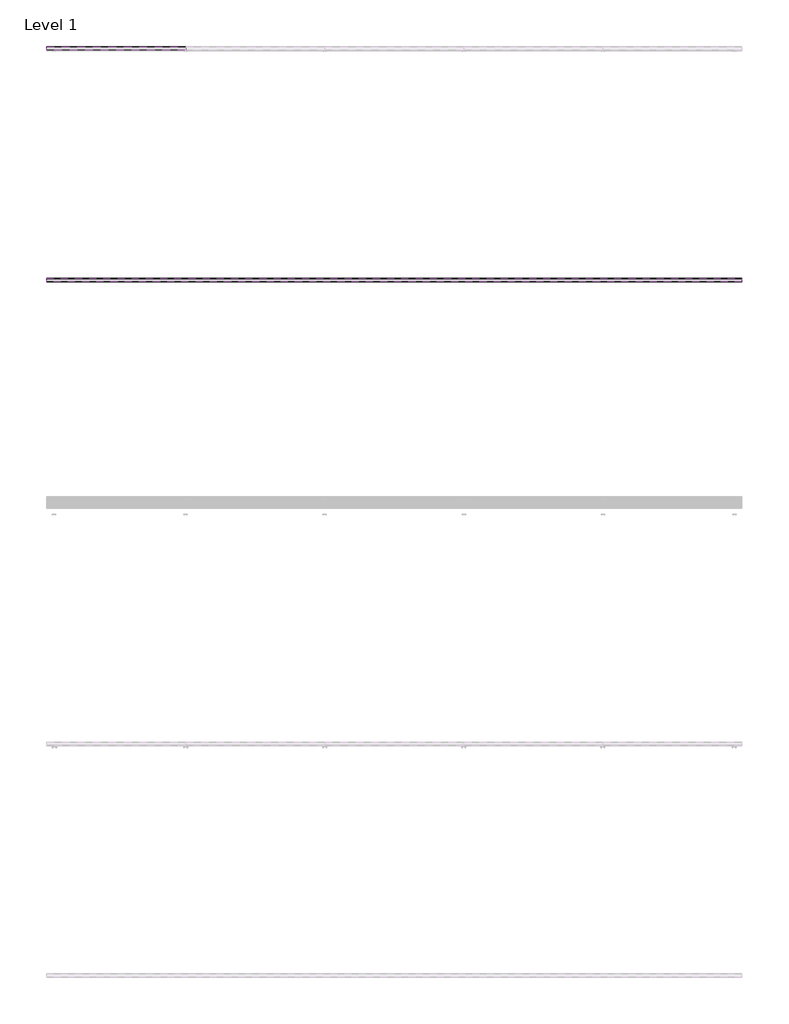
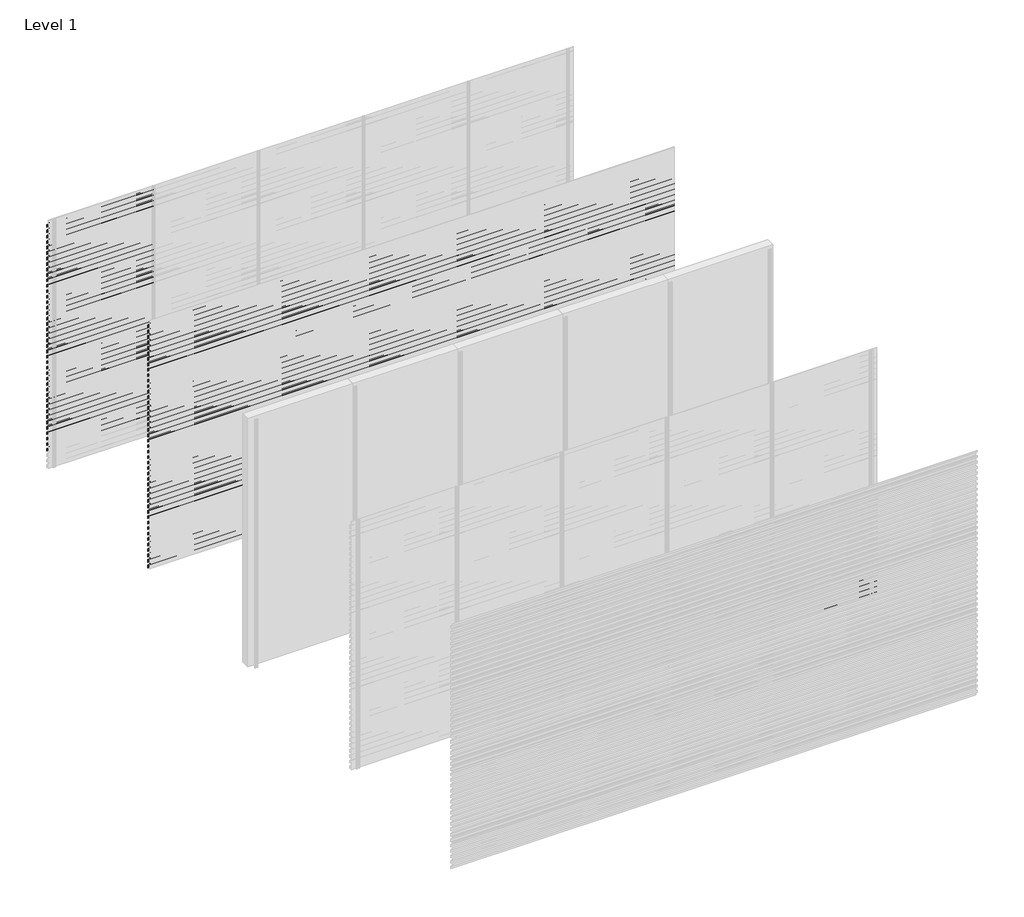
# One storey, part 31 of 33: 91 proxies.
"""IFC4 building model written with IfcOpenShell, lengths in millimetres."""

from ifc_helpers import new_model, si_unit, frame, origin, place, context, project, spatial, polyline, outline, extrude, element, save

model = new_model("IFC4")

# Units and contexts
model_context = context("Model", 3, world=origin())
ifc_project = project(units=[si_unit("LENGTHUNIT", "METRE", prefix="MILLI")], contexts=[model_context])

# Site, building, storey
site = spatial("IfcSite", under=ifc_project)
building = spatial("IfcBuilding", under=site)
storey = spatial("IfcBuildingStorey", under=building, Name="Level 1", Elevation=0.0)

# Proxies
placement = place(None, origin())
element("IfcBuildingElementProxy", 1, Name="Wall Sweeps", at=placement, inside=storey, context=model_context, shape_type="SweptSolid", body=[
    extrude(outline(polyline([(33.0, 2930.0), (33.0, 2897.0), (31.75, 2897.7216933), (31.75, 2929.2872415), (2.0, 2950.0588647), (2.0, 2970.0), (3.25, 2970.0), (3.25, 2950.7716232), (33.0, 2930.0)])), frame((0.0, 0.0, 0.0), z_axis=(1.0, 0.0, 0.0), x_axis=(0.0, 1.0, 0.0)), (0.0, 0.0, 1.0), 1200.0),
])
element("IfcBuildingElementProxy", 2, Name="Wall Sweeps", at=placement, inside=storey, context=model_context, shape_type="SweptSolid", body=[
    extrude(outline(polyline([(33.0, 2864.0), (33.0, 2831.0), (31.75, 2831.7216933), (31.75, 2863.2872415), (2.0, 2884.0588647), (2.0, 2904.0), (3.25, 2904.0), (3.25, 2884.7716232), (33.0, 2864.0)])), frame((0.0, 0.0, 0.0), z_axis=(1.0, 0.0, 0.0), x_axis=(0.0, 1.0, 0.0)), (0.0, 0.0, 1.0), 1200.0),
])
element("IfcBuildingElementProxy", 3, Name="Wall Sweeps", at=placement, inside=storey, context=model_context, shape_type="SweptSolid", body=[
    extrude(outline(polyline([(33.0, 2798.0), (33.0, 2765.0), (31.75, 2765.7216933), (31.75, 2797.2872415), (2.0, 2818.0588647), (2.0, 2838.0), (3.25, 2838.0), (3.25, 2818.7716232), (33.0, 2798.0)])), frame((0.0, 0.0, 0.0), z_axis=(1.0, 0.0, 0.0), x_axis=(0.0, 1.0, 0.0)), (0.0, 0.0, 1.0), 1200.0),
])
element("IfcBuildingElementProxy", 4, Name="Wall Sweeps", at=placement, inside=storey, context=model_context, shape_type="SweptSolid", body=[
    extrude(outline(polyline([(33.0, 2732.0), (33.0, 2699.0), (31.75, 2699.7216933), (31.75, 2731.2872415), (2.0, 2752.0588647), (2.0, 2772.0), (3.25, 2772.0), (3.25, 2752.7716232), (33.0, 2732.0)])), frame((0.0, 0.0, 0.0), z_axis=(1.0, 0.0, 0.0), x_axis=(0.0, 1.0, 0.0)), (0.0, 0.0, 1.0), 1200.0),
])
element("IfcBuildingElementProxy", 5, Name="Wall Sweeps", at=placement, inside=storey, context=model_context, shape_type="SweptSolid", body=[
    extrude(outline(polyline([(33.0, 2666.0), (33.0, 2633.0), (31.75, 2633.7216933), (31.75, 2665.2872415), (2.0, 2686.0588647), (2.0, 2706.0), (3.25, 2706.0), (3.25, 2686.7716232), (33.0, 2666.0)])), frame((0.0, 0.0, 0.0), z_axis=(1.0, 0.0, 0.0), x_axis=(0.0, 1.0, 0.0)), (0.0, 0.0, 1.0), 1200.0),
])
element("IfcBuildingElementProxy", 6, Name="Wall Sweeps", at=placement, inside=storey, context=model_context, shape_type="SweptSolid", body=[
    extrude(outline(polyline([(33.0, 2600.0), (33.0, 2567.0), (31.75, 2567.7216933), (31.75, 2599.2872415), (2.0, 2620.0588647), (2.0, 2640.0), (3.25, 2640.0), (3.25, 2620.7716232), (33.0, 2600.0)])), frame((0.0, 0.0, 0.0), z_axis=(1.0, 0.0, 0.0), x_axis=(0.0, 1.0, 0.0)), (0.0, 0.0, 1.0), 1200.0),
])
element("IfcBuildingElementProxy", 7, Name="Wall Sweeps", at=placement, inside=storey, context=model_context, shape_type="SweptSolid", body=[
    extrude(outline(polyline([(33.0, 2534.0), (33.0, 2501.0), (31.75, 2501.7216933), (31.75, 2533.2872415), (2.0, 2554.0588647), (2.0, 2574.0), (3.25, 2574.0), (3.25, 2554.7716232), (33.0, 2534.0)])), frame((0.0, 0.0, 0.0), z_axis=(1.0, 0.0, 0.0), x_axis=(0.0, 1.0, 0.0)), (0.0, 0.0, 1.0), 1200.0),
])
element("IfcBuildingElementProxy", 8, Name="Wall Sweeps", at=placement, inside=storey, context=model_context, shape_type="SweptSolid", body=[
    extrude(outline(polyline([(33.0, 2468.0), (33.0, 2435.0), (31.75, 2435.7216933), (31.75, 2467.2872415), (2.0, 2488.0588647), (2.0, 2508.0), (3.25, 2508.0), (3.25, 2488.7716232), (33.0, 2468.0)])), frame((0.0, 0.0, 0.0), z_axis=(1.0, 0.0, 0.0), x_axis=(0.0, 1.0, 0.0)), (0.0, 0.0, 1.0), 1200.0),
])
element("IfcBuildingElementProxy", 9, Name="Wall Sweeps", at=placement, inside=storey, context=model_context, shape_type="SweptSolid", body=[
    extrude(outline(polyline([(33.0, 2402.0), (33.0, 2369.0), (31.75, 2369.7216933), (31.75, 2401.2872415), (2.0, 2422.0588647), (2.0, 2442.0), (3.25, 2442.0), (3.25, 2422.7716232), (33.0, 2402.0)])), frame((0.0, 0.0, 0.0), z_axis=(1.0, 0.0, 0.0), x_axis=(0.0, 1.0, 0.0)), (0.0, 0.0, 1.0), 1200.0),
])
element("IfcBuildingElementProxy", 10, Name="Wall Sweeps", at=placement, inside=storey, context=model_context, shape_type="SweptSolid", body=[
    extrude(outline(polyline([(33.0, 2336.0), (33.0, 2303.0), (31.75, 2303.7216933), (31.75, 2335.2872415), (2.0, 2356.0588647), (2.0, 2376.0), (3.25, 2376.0), (3.25, 2356.7716232), (33.0, 2336.0)])), frame((0.0, 0.0, 0.0), z_axis=(1.0, 0.0, 0.0), x_axis=(0.0, 1.0, 0.0)), (0.0, 0.0, 1.0), 1200.0),
])
element("IfcBuildingElementProxy", 11, Name="Wall Sweeps", at=placement, inside=storey, context=model_context, shape_type="SweptSolid", body=[
    extrude(outline(polyline([(33.0, 2270.0), (33.0, 2237.0), (31.75, 2237.7216933), (31.75, 2269.2872415), (2.0, 2290.0588647), (2.0, 2310.0), (3.25, 2310.0), (3.25, 2290.7716232), (33.0, 2270.0)])), frame((0.0, 0.0, 0.0), z_axis=(1.0, 0.0, 0.0), x_axis=(0.0, 1.0, 0.0)), (0.0, 0.0, 1.0), 1200.0),
])
element("IfcBuildingElementProxy", 12, Name="Wall Sweeps", at=placement, inside=storey, context=model_context, shape_type="SweptSolid", body=[
    extrude(outline(polyline([(33.0, 2204.0), (33.0, 2171.0), (31.75, 2171.7216933), (31.75, 2203.2872415), (2.0, 2224.0588647), (2.0, 2244.0), (3.25, 2244.0), (3.25, 2224.7716232), (33.0, 2204.0)])), frame((0.0, 0.0, 0.0), z_axis=(1.0, 0.0, 0.0), x_axis=(0.0, 1.0, 0.0)), (0.0, 0.0, 1.0), 1200.0),
])
element("IfcBuildingElementProxy", 13, Name="Wall Sweeps", at=placement, inside=storey, context=model_context, shape_type="SweptSolid", body=[
    extrude(outline(polyline([(33.0, 2138.0), (33.0, 2105.0), (31.75, 2105.7216933), (31.75, 2137.2872415), (2.0, 2158.0588647), (2.0, 2178.0), (3.25, 2178.0), (3.25, 2158.7716232), (33.0, 2138.0)])), frame((0.0, 0.0, 0.0), z_axis=(1.0, 0.0, 0.0), x_axis=(0.0, 1.0, 0.0)), (0.0, 0.0, 1.0), 1200.0),
])
element("IfcBuildingElementProxy", 14, Name="Wall Sweeps", at=placement, inside=storey, context=model_context, shape_type="SweptSolid", body=[
    extrude(outline(polyline([(33.0, 2072.0), (33.0, 2039.0), (31.75, 2039.7216933), (31.75, 2071.2872415), (2.0, 2092.0588647), (2.0, 2112.0), (3.25, 2112.0), (3.25, 2092.7716232), (33.0, 2072.0)])), frame((0.0, 0.0, 0.0), z_axis=(1.0, 0.0, 0.0), x_axis=(0.0, 1.0, 0.0)), (0.0, 0.0, 1.0), 1200.0),
])
element("IfcBuildingElementProxy", 15, Name="Wall Sweeps", at=placement, inside=storey, context=model_context, shape_type="SweptSolid", body=[
    extrude(outline(polyline([(33.0, 2006.0), (33.0, 1973.0), (31.75, 1973.7216933), (31.75, 2005.2872415), (2.0, 2026.0588647), (2.0, 2046.0), (3.25, 2046.0), (3.25, 2026.7716232), (33.0, 2006.0)])), frame((0.0, 0.0, 0.0), z_axis=(1.0, 0.0, 0.0), x_axis=(0.0, 1.0, 0.0)), (0.0, 0.0, 1.0), 1200.0),
])
element("IfcBuildingElementProxy", 16, Name="Wall Sweeps", at=placement, inside=storey, context=model_context, shape_type="SweptSolid", body=[
    extrude(outline(polyline([(33.0, 1940.0), (33.0, 1907.0), (31.75, 1907.7216933), (31.75, 1939.2872415), (2.0, 1960.0588647), (2.0, 1980.0), (3.25, 1980.0), (3.25, 1960.7716232), (33.0, 1940.0)])), frame((0.0, 0.0, 0.0), z_axis=(1.0, 0.0, 0.0), x_axis=(0.0, 1.0, 0.0)), (0.0, 0.0, 1.0), 1200.0),
])
element("IfcBuildingElementProxy", 17, Name="Wall Sweeps", at=placement, inside=storey, context=model_context, shape_type="SweptSolid", body=[
    extrude(outline(polyline([(33.0, 1874.0), (33.0, 1841.0), (31.75, 1841.7216933), (31.75, 1873.2872415), (2.0, 1894.0588647), (2.0, 1914.0), (3.25, 1914.0), (3.25, 1894.7716232), (33.0, 1874.0)])), frame((0.0, 0.0, 0.0), z_axis=(1.0, 0.0, 0.0), x_axis=(0.0, 1.0, 0.0)), (0.0, 0.0, 1.0), 1200.0),
])
element("IfcBuildingElementProxy", 18, Name="Wall Sweeps", at=placement, inside=storey, context=model_context, shape_type="SweptSolid", body=[
    extrude(outline(polyline([(33.0, 1808.0), (33.0, 1775.0), (31.75, 1775.7216933), (31.75, 1807.2872415), (2.0, 1828.0588647), (2.0, 1848.0), (3.25, 1848.0), (3.25, 1828.7716232), (33.0, 1808.0)])), frame((0.0, 0.0, 0.0), z_axis=(1.0, 0.0, 0.0), x_axis=(0.0, 1.0, 0.0)), (0.0, 0.0, 1.0), 1200.0),
])
element("IfcBuildingElementProxy", 19, Name="Wall Sweeps", at=placement, inside=storey, context=model_context, shape_type="SweptSolid", body=[
    extrude(outline(polyline([(33.0, 1742.0), (33.0, 1709.0), (31.75, 1709.7216933), (31.75, 1741.2872415), (2.0, 1762.0588647), (2.0, 1782.0), (3.25, 1782.0), (3.25, 1762.7716232), (33.0, 1742.0)])), frame((0.0, 0.0, 0.0), z_axis=(1.0, 0.0, 0.0), x_axis=(0.0, 1.0, 0.0)), (0.0, 0.0, 1.0), 1200.0),
])
element("IfcBuildingElementProxy", 20, Name="Wall Sweeps", at=placement, inside=storey, context=model_context, shape_type="SweptSolid", body=[
    extrude(outline(polyline([(33.0, 1676.0), (33.0, 1643.0), (31.75, 1643.7216933), (31.75, 1675.2872415), (2.0, 1696.0588647), (2.0, 1716.0), (3.25, 1716.0), (3.25, 1696.7716232), (33.0, 1676.0)])), frame((0.0, 0.0, 0.0), z_axis=(1.0, 0.0, 0.0), x_axis=(0.0, 1.0, 0.0)), (0.0, 0.0, 1.0), 1200.0),
])
element("IfcBuildingElementProxy", 21, Name="Wall Sweeps", at=placement, inside=storey, context=model_context, shape_type="SweptSolid", body=[
    extrude(outline(polyline([(33.0, 1610.0), (33.0, 1577.0), (31.75, 1577.7216933), (31.75, 1609.2872415), (2.0, 1630.0588647), (2.0, 1650.0), (3.25, 1650.0), (3.25, 1630.7716232), (33.0, 1610.0)])), frame((0.0, 0.0, 0.0), z_axis=(1.0, 0.0, 0.0), x_axis=(0.0, 1.0, 0.0)), (0.0, 0.0, 1.0), 1200.0),
])
element("IfcBuildingElementProxy", 22, Name="Wall Sweeps", at=placement, inside=storey, context=model_context, shape_type="SweptSolid", body=[
    extrude(outline(polyline([(33.0, 1544.0), (33.0, 1511.0), (31.75, 1511.7216933), (31.75, 1543.2872415), (2.0, 1564.0588647), (2.0, 1584.0), (3.25, 1584.0), (3.25, 1564.7716232), (33.0, 1544.0)])), frame((0.0, 0.0, 0.0), z_axis=(1.0, 0.0, 0.0), x_axis=(0.0, 1.0, 0.0)), (0.0, 0.0, 1.0), 1200.0),
])
element("IfcBuildingElementProxy", 23, Name="Wall Sweeps", at=placement, inside=storey, context=model_context, shape_type="SweptSolid", body=[
    extrude(outline(polyline([(33.0, 1478.0), (33.0, 1445.0), (31.75, 1445.7216933), (31.75, 1477.2872415), (2.0, 1498.0588647), (2.0, 1518.0), (3.25, 1518.0), (3.25, 1498.7716232), (33.0, 1478.0)])), frame((0.0, 0.0, 0.0), z_axis=(1.0, 0.0, 0.0), x_axis=(0.0, 1.0, 0.0)), (0.0, 0.0, 1.0), 1200.0),
])
element("IfcBuildingElementProxy", 24, Name="Wall Sweeps", at=placement, inside=storey, context=model_context, shape_type="SweptSolid", body=[
    extrude(outline(polyline([(33.0, 1412.0), (33.0, 1379.0), (31.75, 1379.7216933), (31.75, 1411.2872415), (2.0, 1432.0588647), (2.0, 1452.0), (3.25, 1452.0), (3.25, 1432.7716232), (33.0, 1412.0)])), frame((0.0, 0.0, 0.0), z_axis=(1.0, 0.0, 0.0), x_axis=(0.0, 1.0, 0.0)), (0.0, 0.0, 1.0), 1200.0),
])
element("IfcBuildingElementProxy", 25, Name="Wall Sweeps", at=placement, inside=storey, context=model_context, shape_type="SweptSolid", body=[
    extrude(outline(polyline([(33.0, 1346.0), (33.0, 1313.0), (31.75, 1313.7216933), (31.75, 1345.2872415), (2.0, 1366.0588647), (2.0, 1386.0), (3.25, 1386.0), (3.25, 1366.7716232), (33.0, 1346.0)])), frame((0.0, 0.0, 0.0), z_axis=(1.0, 0.0, 0.0), x_axis=(0.0, 1.0, 0.0)), (0.0, 0.0, 1.0), 1200.0),
])
element("IfcBuildingElementProxy", 26, Name="Wall Sweeps", at=placement, inside=storey, context=model_context, shape_type="SweptSolid", body=[
    extrude(outline(polyline([(33.0, 1280.0), (33.0, 1247.0), (31.75, 1247.7216933), (31.75, 1279.2872415), (2.0, 1300.0588647), (2.0, 1320.0), (3.25, 1320.0), (3.25, 1300.7716232), (33.0, 1280.0)])), frame((0.0, 0.0, 0.0), z_axis=(1.0, 0.0, 0.0), x_axis=(0.0, 1.0, 0.0)), (0.0, 0.0, 1.0), 1200.0),
])
element("IfcBuildingElementProxy", 27, Name="Wall Sweeps", at=placement, inside=storey, context=model_context, shape_type="SweptSolid", body=[
    extrude(outline(polyline([(33.0, 1214.0), (33.0, 1181.0), (31.75, 1181.7216933), (31.75, 1213.2872415), (2.0, 1234.0588647), (2.0, 1254.0), (3.25, 1254.0), (3.25, 1234.7716232), (33.0, 1214.0)])), frame((0.0, 0.0, 0.0), z_axis=(1.0, 0.0, 0.0), x_axis=(0.0, 1.0, 0.0)), (0.0, 0.0, 1.0), 1200.0),
])
element("IfcBuildingElementProxy", 28, Name="Wall Sweeps", at=placement, inside=storey, context=model_context, shape_type="SweptSolid", body=[
    extrude(outline(polyline([(33.0, 1148.0), (33.0, 1115.0), (31.75, 1115.7216933), (31.75, 1147.2872415), (2.0, 1168.0588647), (2.0, 1188.0), (3.25, 1188.0), (3.25, 1168.7716232), (33.0, 1148.0)])), frame((0.0, 0.0, 0.0), z_axis=(1.0, 0.0, 0.0), x_axis=(0.0, 1.0, 0.0)), (0.0, 0.0, 1.0), 1200.0),
])
element("IfcBuildingElementProxy", 29, Name="Wall Sweeps", at=placement, inside=storey, context=model_context, shape_type="SweptSolid", body=[
    extrude(outline(polyline([(33.0, 1082.0), (33.0, 1049.0), (31.75, 1049.7216933), (31.75, 1081.2872415), (2.0, 1102.0588647), (2.0, 1122.0), (3.25, 1122.0), (3.25, 1102.7716232), (33.0, 1082.0)])), frame((0.0, 0.0, 0.0), z_axis=(1.0, 0.0, 0.0), x_axis=(0.0, 1.0, 0.0)), (0.0, 0.0, 1.0), 1200.0),
])
element("IfcBuildingElementProxy", 30, Name="Wall Sweeps", at=placement, inside=storey, context=model_context, shape_type="SweptSolid", body=[
    extrude(outline(polyline([(33.0, 1016.0), (33.0, 983.0), (31.75, 983.7216933), (31.75, 1015.2872415), (2.0, 1036.0588647), (2.0, 1056.0), (3.25, 1056.0), (3.25, 1036.7716232), (33.0, 1016.0)])), frame((0.0, 0.0, 0.0), z_axis=(1.0, 0.0, 0.0), x_axis=(0.0, 1.0, 0.0)), (0.0, 0.0, 1.0), 1200.0),
])
element("IfcBuildingElementProxy", 31, Name="Wall Sweeps", at=placement, inside=storey, context=model_context, shape_type="SweptSolid", body=[
    extrude(outline(polyline([(33.0, 950.0), (33.0, 917.0), (31.75, 917.7216933), (31.75, 949.2872415), (2.0, 970.0588647), (2.0, 990.0), (3.25, 990.0), (3.25, 970.7716232), (33.0, 950.0)])), frame((0.0, 0.0, 0.0), z_axis=(1.0, 0.0, 0.0), x_axis=(0.0, 1.0, 0.0)), (0.0, 0.0, 1.0), 1200.0),
])
element("IfcBuildingElementProxy", 32, Name="Wall Sweeps", at=placement, inside=storey, context=model_context, shape_type="SweptSolid", body=[
    extrude(outline(polyline([(33.0, 884.0), (33.0, 851.0), (31.75, 851.7216933), (31.75, 883.2872415), (2.0, 904.0588647), (2.0, 924.0), (3.25, 924.0), (3.25, 904.7716232), (33.0, 884.0)])), frame((0.0, 0.0, 0.0), z_axis=(1.0, 0.0, 0.0), x_axis=(0.0, 1.0, 0.0)), (0.0, 0.0, 1.0), 1200.0),
])
element("IfcBuildingElementProxy", 33, Name="Wall Sweeps", at=placement, inside=storey, context=model_context, shape_type="SweptSolid", body=[
    extrude(outline(polyline([(33.0, 818.0), (33.0, 785.0), (31.75, 785.7216933), (31.75, 817.2872415), (2.0, 838.0588647), (2.0, 858.0), (3.25, 858.0), (3.25, 838.7716232), (33.0, 818.0)])), frame((0.0, 0.0, 0.0), z_axis=(1.0, 0.0, 0.0), x_axis=(0.0, 1.0, 0.0)), (0.0, 0.0, 1.0), 1200.0),
])
element("IfcBuildingElementProxy", 34, Name="Wall Sweeps", at=placement, inside=storey, context=model_context, shape_type="SweptSolid", body=[
    extrude(outline(polyline([(33.0, 752.0), (33.0, 719.0), (31.75, 719.7216933), (31.75, 751.2872415), (2.0, 772.0588647), (2.0, 792.0), (3.25, 792.0), (3.25, 772.7716232), (33.0, 752.0)])), frame((0.0, 0.0, 0.0), z_axis=(1.0, 0.0, 0.0), x_axis=(0.0, 1.0, 0.0)), (0.0, 0.0, 1.0), 1200.0),
])
element("IfcBuildingElementProxy", 35, Name="Wall Sweeps", at=placement, inside=storey, context=model_context, shape_type="SweptSolid", body=[
    extrude(outline(polyline([(33.0, 686.0), (33.0, 653.0), (31.75, 653.7216933), (31.75, 685.2872415), (2.0, 706.0588647), (2.0, 726.0), (3.25, 726.0), (3.25, 706.7716232), (33.0, 686.0)])), frame((0.0, 0.0, 0.0), z_axis=(1.0, 0.0, 0.0), x_axis=(0.0, 1.0, 0.0)), (0.0, 0.0, 1.0), 1200.0),
])
element("IfcBuildingElementProxy", 36, Name="Wall Sweeps", at=placement, inside=storey, context=model_context, shape_type="SweptSolid", body=[
    extrude(outline(polyline([(33.0, 620.0), (33.0, 587.0), (31.75, 587.7216933), (31.75, 619.2872415), (2.0, 640.0588647), (2.0, 660.0), (3.25, 660.0), (3.25, 640.7716232), (33.0, 620.0)])), frame((0.0, 0.0, 0.0), z_axis=(1.0, 0.0, 0.0), x_axis=(0.0, 1.0, 0.0)), (0.0, 0.0, 1.0), 1200.0),
])
element("IfcBuildingElementProxy", 37, Name="Wall Sweeps", at=placement, inside=storey, context=model_context, shape_type="SweptSolid", body=[
    extrude(outline(polyline([(33.0, 554.0), (33.0, 521.0), (31.75, 521.7216933), (31.75, 553.2872415), (2.0, 574.0588647), (2.0, 594.0), (3.25, 594.0), (3.25, 574.7716232), (33.0, 554.0)])), frame((0.0, 0.0, 0.0), z_axis=(1.0, 0.0, 0.0), x_axis=(0.0, 1.0, 0.0)), (0.0, 0.0, 1.0), 1200.0),
])
element("IfcBuildingElementProxy", 38, Name="Wall Sweeps", at=placement, inside=storey, context=model_context, shape_type="SweptSolid", body=[
    extrude(outline(polyline([(33.0, 488.0), (33.0, 455.0), (31.75, 455.7216933), (31.75, 487.2872415), (2.0, 508.0588647), (2.0, 528.0), (3.25, 528.0), (3.25, 508.7716232), (33.0, 488.0)])), frame((0.0, 0.0, 0.0), z_axis=(1.0, 0.0, 0.0), x_axis=(0.0, 1.0, 0.0)), (0.0, 0.0, 1.0), 1200.0),
])
element("IfcBuildingElementProxy", 39, Name="Wall Sweeps", at=placement, inside=storey, context=model_context, shape_type="SweptSolid", body=[
    extrude(outline(polyline([(33.0, 422.0), (33.0, 389.0), (31.75, 389.7216933), (31.75, 421.2872415), (2.0, 442.0588647), (2.0, 462.0), (3.25, 462.0), (3.25, 442.7716232), (33.0, 422.0)])), frame((0.0, 0.0, 0.0), z_axis=(1.0, 0.0, 0.0), x_axis=(0.0, 1.0, 0.0)), (0.0, 0.0, 1.0), 1200.0),
])
element("IfcBuildingElementProxy", 40, Name="Wall Sweeps", at=placement, inside=storey, context=model_context, shape_type="SweptSolid", body=[
    extrude(outline(polyline([(33.0, 356.0), (33.0, 323.0), (31.75, 323.7216933), (31.75, 355.2872415), (2.0, 376.0588647), (2.0, 396.0), (3.25, 396.0), (3.25, 376.7716232), (33.0, 356.0)])), frame((0.0, 0.0, 0.0), z_axis=(1.0, 0.0, 0.0), x_axis=(0.0, 1.0, 0.0)), (0.0, 0.0, 1.0), 1200.0),
])
element("IfcBuildingElementProxy", 41, Name="Wall Sweeps", at=placement, inside=storey, context=model_context, shape_type="SweptSolid", body=[
    extrude(outline(polyline([(33.0, 290.0), (33.0, 257.0), (31.75, 257.7216933), (31.75, 289.2872415), (2.0, 310.0588647), (2.0, 330.0), (3.25, 330.0), (3.25, 310.7716232), (33.0, 290.0)])), frame((0.0, 0.0, 0.0), z_axis=(1.0, 0.0, 0.0), x_axis=(0.0, 1.0, 0.0)), (0.0, 0.0, 1.0), 1200.0),
])
element("IfcBuildingElementProxy", 42, Name="Wall Sweeps", at=placement, inside=storey, context=model_context, shape_type="SweptSolid", body=[
    extrude(outline(polyline([(33.0, 224.0), (33.0, 191.0), (31.75, 191.7216933), (31.75, 223.2872415), (2.0, 244.0588647), (2.0, 264.0), (3.25, 264.0), (3.25, 244.7716232), (33.0, 224.0)])), frame((0.0, 0.0, 0.0), z_axis=(1.0, 0.0, 0.0), x_axis=(0.0, 1.0, 0.0)), (0.0, 0.0, 1.0), 1200.0),
])
element("IfcBuildingElementProxy", 43, Name="Wall Sweeps", at=placement, inside=storey, context=model_context, shape_type="SweptSolid", body=[
    extrude(outline(polyline([(-1967.0, 2930.0), (-1967.0, 2897.0), (-1968.25, 2897.7216933), (-1968.25, 2929.2872415), (-1998.0, 2950.0588647), (-1998.0, 2970.0), (-1996.75, 2970.0), (-1996.75, 2950.7716232), (-1967.0, 2930.0)])), frame((0.0, 0.0, 0.0), z_axis=(1.0, 0.0, 0.0), x_axis=(0.0, 1.0, 0.0)), (0.0, 0.0, 1.0), 6000.0),
])
element("IfcBuildingElementProxy", 44, Name="Wall Sweeps", at=placement, inside=storey, context=model_context, shape_type="SweptSolid", body=[
    extrude(outline(polyline([(-1967.0, 2864.0), (-1967.0, 2831.0), (-1968.25, 2831.7216933), (-1968.25, 2863.2872415), (-1998.0, 2884.0588647), (-1998.0, 2904.0), (-1996.75, 2904.0), (-1996.75, 2884.7716232), (-1967.0, 2864.0)])), frame((0.0, 0.0, 0.0), z_axis=(1.0, 0.0, 0.0), x_axis=(0.0, 1.0, 0.0)), (0.0, 0.0, 1.0), 6000.0),
])
element("IfcBuildingElementProxy", 45, Name="Wall Sweeps", at=placement, inside=storey, context=model_context, shape_type="SweptSolid", body=[
    extrude(outline(polyline([(-1967.0, 2798.0), (-1967.0, 2765.0), (-1968.25, 2765.7216933), (-1968.25, 2797.2872415), (-1998.0, 2818.0588647), (-1998.0, 2838.0), (-1996.75, 2838.0), (-1996.75, 2818.7716232), (-1967.0, 2798.0)])), frame((0.0, 0.0, 0.0), z_axis=(1.0, 0.0, 0.0), x_axis=(0.0, 1.0, 0.0)), (0.0, 0.0, 1.0), 6000.0),
])
element("IfcBuildingElementProxy", 46, Name="Wall Sweeps", at=placement, inside=storey, context=model_context, shape_type="SweptSolid", body=[
    extrude(outline(polyline([(-1967.0, 2732.0), (-1967.0, 2699.0), (-1968.25, 2699.7216933), (-1968.25, 2731.2872415), (-1998.0, 2752.0588647), (-1998.0, 2772.0), (-1996.75, 2772.0), (-1996.75, 2752.7716232), (-1967.0, 2732.0)])), frame((0.0, 0.0, 0.0), z_axis=(1.0, 0.0, 0.0), x_axis=(0.0, 1.0, 0.0)), (0.0, 0.0, 1.0), 6000.0),
])
element("IfcBuildingElementProxy", 47, Name="Wall Sweeps", at=placement, inside=storey, context=model_context, shape_type="SweptSolid", body=[
    extrude(outline(polyline([(-1967.0, 2666.0), (-1967.0, 2633.0), (-1968.25, 2633.7216933), (-1968.25, 2665.2872415), (-1998.0, 2686.0588647), (-1998.0, 2706.0), (-1996.75, 2706.0), (-1996.75, 2686.7716232), (-1967.0, 2666.0)])), frame((0.0, 0.0, 0.0), z_axis=(1.0, 0.0, 0.0), x_axis=(0.0, 1.0, 0.0)), (0.0, 0.0, 1.0), 6000.0),
])
element("IfcBuildingElementProxy", 48, Name="Wall Sweeps", at=placement, inside=storey, context=model_context, shape_type="SweptSolid", body=[
    extrude(outline(polyline([(-1967.0, 2600.0), (-1967.0, 2567.0), (-1968.25, 2567.7216933), (-1968.25, 2599.2872415), (-1998.0, 2620.0588647), (-1998.0, 2640.0), (-1996.75, 2640.0), (-1996.75, 2620.7716232), (-1967.0, 2600.0)])), frame((0.0, 0.0, 0.0), z_axis=(1.0, 0.0, 0.0), x_axis=(0.0, 1.0, 0.0)), (0.0, 0.0, 1.0), 6000.0),
])
element("IfcBuildingElementProxy", 49, Name="Wall Sweeps", at=placement, inside=storey, context=model_context, shape_type="SweptSolid", body=[
    extrude(outline(polyline([(-1967.0, 2534.0), (-1967.0, 2501.0), (-1968.25, 2501.7216933), (-1968.25, 2533.2872415), (-1998.0, 2554.0588647), (-1998.0, 2574.0), (-1996.75, 2574.0), (-1996.75, 2554.7716232), (-1967.0, 2534.0)])), frame((0.0, 0.0, 0.0), z_axis=(1.0, 0.0, 0.0), x_axis=(0.0, 1.0, 0.0)), (0.0, 0.0, 1.0), 6000.0),
])
element("IfcBuildingElementProxy", 50, Name="Wall Sweeps", at=placement, inside=storey, context=model_context, shape_type="SweptSolid", body=[
    extrude(outline(polyline([(-1967.0, 2468.0), (-1967.0, 2435.0), (-1968.25, 2435.7216933), (-1968.25, 2467.2872415), (-1998.0, 2488.0588647), (-1998.0, 2508.0), (-1996.75, 2508.0), (-1996.75, 2488.7716232), (-1967.0, 2468.0)])), frame((0.0, 0.0, 0.0), z_axis=(1.0, 0.0, 0.0), x_axis=(0.0, 1.0, 0.0)), (0.0, 0.0, 1.0), 6000.0),
])
element("IfcBuildingElementProxy", 51, Name="Wall Sweeps", at=placement, inside=storey, context=model_context, shape_type="SweptSolid", body=[
    extrude(outline(polyline([(-1967.0, 2402.0), (-1967.0, 2369.0), (-1968.25, 2369.7216933), (-1968.25, 2401.2872415), (-1998.0, 2422.0588647), (-1998.0, 2442.0), (-1996.75, 2442.0), (-1996.75, 2422.7716232), (-1967.0, 2402.0)])), frame((0.0, 0.0, 0.0), z_axis=(1.0, 0.0, 0.0), x_axis=(0.0, 1.0, 0.0)), (0.0, 0.0, 1.0), 6000.0),
])
element("IfcBuildingElementProxy", 52, Name="Wall Sweeps", at=placement, inside=storey, context=model_context, shape_type="SweptSolid", body=[
    extrude(outline(polyline([(-1967.0, 2336.0), (-1967.0, 2303.0), (-1968.25, 2303.7216933), (-1968.25, 2335.2872415), (-1998.0, 2356.0588647), (-1998.0, 2376.0), (-1996.75, 2376.0), (-1996.75, 2356.7716232), (-1967.0, 2336.0)])), frame((0.0, 0.0, 0.0), z_axis=(1.0, 0.0, 0.0), x_axis=(0.0, 1.0, 0.0)), (0.0, 0.0, 1.0), 6000.0),
])
element("IfcBuildingElementProxy", 53, Name="Wall Sweeps", at=placement, inside=storey, context=model_context, shape_type="SweptSolid", body=[
    extrude(outline(polyline([(-1967.0, 2270.0), (-1967.0, 2237.0), (-1968.25, 2237.7216933), (-1968.25, 2269.2872415), (-1998.0, 2290.0588647), (-1998.0, 2310.0), (-1996.75, 2310.0), (-1996.75, 2290.7716232), (-1967.0, 2270.0)])), frame((0.0, 0.0, 0.0), z_axis=(1.0, 0.0, 0.0), x_axis=(0.0, 1.0, 0.0)), (0.0, 0.0, 1.0), 6000.0),
])
element("IfcBuildingElementProxy", 54, Name="Wall Sweeps", at=placement, inside=storey, context=model_context, shape_type="SweptSolid", body=[
    extrude(outline(polyline([(-1967.0, 2204.0), (-1967.0, 2171.0), (-1968.25, 2171.7216933), (-1968.25, 2203.2872415), (-1998.0, 2224.0588647), (-1998.0, 2244.0), (-1996.75, 2244.0), (-1996.75, 2224.7716232), (-1967.0, 2204.0)])), frame((0.0, 0.0, 0.0), z_axis=(1.0, 0.0, 0.0), x_axis=(0.0, 1.0, 0.0)), (0.0, 0.0, 1.0), 6000.0),
])
element("IfcBuildingElementProxy", 55, Name="Wall Sweeps", at=placement, inside=storey, context=model_context, shape_type="SweptSolid", body=[
    extrude(outline(polyline([(-1967.0, 2138.0), (-1967.0, 2105.0), (-1968.25, 2105.7216933), (-1968.25, 2137.2872415), (-1998.0, 2158.0588647), (-1998.0, 2178.0), (-1996.75, 2178.0), (-1996.75, 2158.7716232), (-1967.0, 2138.0)])), frame((0.0, 0.0, 0.0), z_axis=(1.0, 0.0, 0.0), x_axis=(0.0, 1.0, 0.0)), (0.0, 0.0, 1.0), 6000.0),
])
element("IfcBuildingElementProxy", 56, Name="Wall Sweeps", at=placement, inside=storey, context=model_context, shape_type="SweptSolid", body=[
    extrude(outline(polyline([(-1967.0, 2072.0), (-1967.0, 2039.0), (-1968.25, 2039.7216933), (-1968.25, 2071.2872415), (-1998.0, 2092.0588647), (-1998.0, 2112.0), (-1996.75, 2112.0), (-1996.75, 2092.7716232), (-1967.0, 2072.0)])), frame((0.0, 0.0, 0.0), z_axis=(1.0, 0.0, 0.0), x_axis=(0.0, 1.0, 0.0)), (0.0, 0.0, 1.0), 6000.0),
])
element("IfcBuildingElementProxy", 57, Name="Wall Sweeps", at=placement, inside=storey, context=model_context, shape_type="SweptSolid", body=[
    extrude(outline(polyline([(-1967.0, 2006.0), (-1967.0, 1973.0), (-1968.25, 1973.7216933), (-1968.25, 2005.2872415), (-1998.0, 2026.0588647), (-1998.0, 2046.0), (-1996.75, 2046.0), (-1996.75, 2026.7716232), (-1967.0, 2006.0)])), frame((0.0, 0.0, 0.0), z_axis=(1.0, 0.0, 0.0), x_axis=(0.0, 1.0, 0.0)), (0.0, 0.0, 1.0), 6000.0),
])
element("IfcBuildingElementProxy", 58, Name="Wall Sweeps", at=placement, inside=storey, context=model_context, shape_type="SweptSolid", body=[
    extrude(outline(polyline([(-1967.0, 1940.0), (-1967.0, 1907.0), (-1968.25, 1907.7216933), (-1968.25, 1939.2872415), (-1998.0, 1960.0588647), (-1998.0, 1980.0), (-1996.75, 1980.0), (-1996.75, 1960.7716232), (-1967.0, 1940.0)])), frame((0.0, 0.0, 0.0), z_axis=(1.0, 0.0, 0.0), x_axis=(0.0, 1.0, 0.0)), (0.0, 0.0, 1.0), 6000.0),
])
element("IfcBuildingElementProxy", 59, Name="Wall Sweeps", at=placement, inside=storey, context=model_context, shape_type="SweptSolid", body=[
    extrude(outline(polyline([(-1967.0, 1874.0), (-1967.0, 1841.0), (-1968.25, 1841.7216933), (-1968.25, 1873.2872415), (-1998.0, 1894.0588647), (-1998.0, 1914.0), (-1996.75, 1914.0), (-1996.75, 1894.7716232), (-1967.0, 1874.0)])), frame((0.0, 0.0, 0.0), z_axis=(1.0, 0.0, 0.0), x_axis=(0.0, 1.0, 0.0)), (0.0, 0.0, 1.0), 6000.0),
])
element("IfcBuildingElementProxy", 60, Name="Wall Sweeps", at=placement, inside=storey, context=model_context, shape_type="SweptSolid", body=[
    extrude(outline(polyline([(-1967.0, 1808.0), (-1967.0, 1775.0), (-1968.25, 1775.7216933), (-1968.25, 1807.2872415), (-1998.0, 1828.0588647), (-1998.0, 1848.0), (-1996.75, 1848.0), (-1996.75, 1828.7716232), (-1967.0, 1808.0)])), frame((0.0, 0.0, 0.0), z_axis=(1.0, 0.0, 0.0), x_axis=(0.0, 1.0, 0.0)), (0.0, 0.0, 1.0), 6000.0),
])
element("IfcBuildingElementProxy", 61, Name="Wall Sweeps", at=placement, inside=storey, context=model_context, shape_type="SweptSolid", body=[
    extrude(outline(polyline([(-1967.0, 1742.0), (-1967.0, 1709.0), (-1968.25, 1709.7216933), (-1968.25, 1741.2872415), (-1998.0, 1762.0588647), (-1998.0, 1782.0), (-1996.75, 1782.0), (-1996.75, 1762.7716232), (-1967.0, 1742.0)])), frame((0.0, 0.0, 0.0), z_axis=(1.0, 0.0, 0.0), x_axis=(0.0, 1.0, 0.0)), (0.0, 0.0, 1.0), 6000.0),
])
element("IfcBuildingElementProxy", 62, Name="Wall Sweeps", at=placement, inside=storey, context=model_context, shape_type="SweptSolid", body=[
    extrude(outline(polyline([(-1967.0, 1676.0), (-1967.0, 1643.0), (-1968.25, 1643.7216933), (-1968.25, 1675.2872415), (-1998.0, 1696.0588647), (-1998.0, 1716.0), (-1996.75, 1716.0), (-1996.75, 1696.7716232), (-1967.0, 1676.0)])), frame((0.0, 0.0, 0.0), z_axis=(1.0, 0.0, 0.0), x_axis=(0.0, 1.0, 0.0)), (0.0, 0.0, 1.0), 6000.0),
])
element("IfcBuildingElementProxy", 63, Name="Wall Sweeps", at=placement, inside=storey, context=model_context, shape_type="SweptSolid", body=[
    extrude(outline(polyline([(-1967.0, 1610.0), (-1967.0, 1577.0), (-1968.25, 1577.7216933), (-1968.25, 1609.2872415), (-1998.0, 1630.0588647), (-1998.0, 1650.0), (-1996.75, 1650.0), (-1996.75, 1630.7716232), (-1967.0, 1610.0)])), frame((0.0, 0.0, 0.0), z_axis=(1.0, 0.0, 0.0), x_axis=(0.0, 1.0, 0.0)), (0.0, 0.0, 1.0), 6000.0),
])
element("IfcBuildingElementProxy", 64, Name="Wall Sweeps", at=placement, inside=storey, context=model_context, shape_type="SweptSolid", body=[
    extrude(outline(polyline([(-1967.0, 1544.0), (-1967.0, 1511.0), (-1968.25, 1511.7216933), (-1968.25, 1543.2872415), (-1998.0, 1564.0588647), (-1998.0, 1584.0), (-1996.75, 1584.0), (-1996.75, 1564.7716232), (-1967.0, 1544.0)])), frame((0.0, 0.0, 0.0), z_axis=(1.0, 0.0, 0.0), x_axis=(0.0, 1.0, 0.0)), (0.0, 0.0, 1.0), 6000.0),
])
element("IfcBuildingElementProxy", 65, Name="Wall Sweeps", at=placement, inside=storey, context=model_context, shape_type="SweptSolid", body=[
    extrude(outline(polyline([(-1967.0, 1478.0), (-1967.0, 1445.0), (-1968.25, 1445.7216933), (-1968.25, 1477.2872415), (-1998.0, 1498.0588647), (-1998.0, 1518.0), (-1996.75, 1518.0), (-1996.75, 1498.7716232), (-1967.0, 1478.0)])), frame((0.0, 0.0, 0.0), z_axis=(1.0, 0.0, 0.0), x_axis=(0.0, 1.0, 0.0)), (0.0, 0.0, 1.0), 6000.0),
])
element("IfcBuildingElementProxy", 66, Name="Wall Sweeps", at=placement, inside=storey, context=model_context, shape_type="SweptSolid", body=[
    extrude(outline(polyline([(-1967.0, 1412.0), (-1967.0, 1379.0), (-1968.25, 1379.7216933), (-1968.25, 1411.2872415), (-1998.0, 1432.0588647), (-1998.0, 1452.0), (-1996.75, 1452.0), (-1996.75, 1432.7716232), (-1967.0, 1412.0)])), frame((0.0, 0.0, 0.0), z_axis=(1.0, 0.0, 0.0), x_axis=(0.0, 1.0, 0.0)), (0.0, 0.0, 1.0), 6000.0),
])
element("IfcBuildingElementProxy", 67, Name="Wall Sweeps", at=placement, inside=storey, context=model_context, shape_type="SweptSolid", body=[
    extrude(outline(polyline([(-1967.0, 1346.0), (-1967.0, 1313.0), (-1968.25, 1313.7216933), (-1968.25, 1345.2872415), (-1998.0, 1366.0588647), (-1998.0, 1386.0), (-1996.75, 1386.0), (-1996.75, 1366.7716232), (-1967.0, 1346.0)])), frame((0.0, 0.0, 0.0), z_axis=(1.0, 0.0, 0.0), x_axis=(0.0, 1.0, 0.0)), (0.0, 0.0, 1.0), 6000.0),
])
element("IfcBuildingElementProxy", 68, Name="Wall Sweeps", at=placement, inside=storey, context=model_context, shape_type="SweptSolid", body=[
    extrude(outline(polyline([(-1967.0, 1280.0), (-1967.0, 1247.0), (-1968.25, 1247.7216933), (-1968.25, 1279.2872415), (-1998.0, 1300.0588647), (-1998.0, 1320.0), (-1996.75, 1320.0), (-1996.75, 1300.7716232), (-1967.0, 1280.0)])), frame((0.0, 0.0, 0.0), z_axis=(1.0, 0.0, 0.0), x_axis=(0.0, 1.0, 0.0)), (0.0, 0.0, 1.0), 6000.0),
])
element("IfcBuildingElementProxy", 69, Name="Wall Sweeps", at=placement, inside=storey, context=model_context, shape_type="SweptSolid", body=[
    extrude(outline(polyline([(-1967.0, 1214.0), (-1967.0, 1181.0), (-1968.25, 1181.7216933), (-1968.25, 1213.2872415), (-1998.0, 1234.0588647), (-1998.0, 1254.0), (-1996.75, 1254.0), (-1996.75, 1234.7716232), (-1967.0, 1214.0)])), frame((0.0, 0.0, 0.0), z_axis=(1.0, 0.0, 0.0), x_axis=(0.0, 1.0, 0.0)), (0.0, 0.0, 1.0), 6000.0),
])
element("IfcBuildingElementProxy", 70, Name="Wall Sweeps", at=placement, inside=storey, context=model_context, shape_type="SweptSolid", body=[
    extrude(outline(polyline([(-1967.0, 1148.0), (-1967.0, 1115.0), (-1968.25, 1115.7216933), (-1968.25, 1147.2872415), (-1998.0, 1168.0588647), (-1998.0, 1188.0), (-1996.75, 1188.0), (-1996.75, 1168.7716232), (-1967.0, 1148.0)])), frame((0.0, 0.0, 0.0), z_axis=(1.0, 0.0, 0.0), x_axis=(0.0, 1.0, 0.0)), (0.0, 0.0, 1.0), 6000.0),
])
element("IfcBuildingElementProxy", 71, Name="Wall Sweeps", at=placement, inside=storey, context=model_context, shape_type="SweptSolid", body=[
    extrude(outline(polyline([(-1967.0, 1082.0), (-1967.0, 1049.0), (-1968.25, 1049.7216933), (-1968.25, 1081.2872415), (-1998.0, 1102.0588647), (-1998.0, 1122.0), (-1996.75, 1122.0), (-1996.75, 1102.7716232), (-1967.0, 1082.0)])), frame((0.0, 0.0, 0.0), z_axis=(1.0, 0.0, 0.0), x_axis=(0.0, 1.0, 0.0)), (0.0, 0.0, 1.0), 6000.0),
])
element("IfcBuildingElementProxy", 72, Name="Wall Sweeps", at=placement, inside=storey, context=model_context, shape_type="SweptSolid", body=[
    extrude(outline(polyline([(-1967.0, 1016.0), (-1967.0, 983.0), (-1968.25, 983.7216933), (-1968.25, 1015.2872415), (-1998.0, 1036.0588647), (-1998.0, 1056.0), (-1996.75, 1056.0), (-1996.75, 1036.7716232), (-1967.0, 1016.0)])), frame((0.0, 0.0, 0.0), z_axis=(1.0, 0.0, 0.0), x_axis=(0.0, 1.0, 0.0)), (0.0, 0.0, 1.0), 6000.0),
])
element("IfcBuildingElementProxy", 73, Name="Wall Sweeps", at=placement, inside=storey, context=model_context, shape_type="SweptSolid", body=[
    extrude(outline(polyline([(-1967.0, 950.0), (-1967.0, 917.0), (-1968.25, 917.7216933), (-1968.25, 949.2872415), (-1998.0, 970.0588647), (-1998.0, 990.0), (-1996.75, 990.0), (-1996.75, 970.7716232), (-1967.0, 950.0)])), frame((0.0, 0.0, 0.0), z_axis=(1.0, 0.0, 0.0), x_axis=(0.0, 1.0, 0.0)), (0.0, 0.0, 1.0), 6000.0),
])
element("IfcBuildingElementProxy", 74, Name="Wall Sweeps", at=placement, inside=storey, context=model_context, shape_type="SweptSolid", body=[
    extrude(outline(polyline([(-1967.0, 884.0), (-1967.0, 851.0), (-1968.25, 851.7216933), (-1968.25, 883.2872415), (-1998.0, 904.0588647), (-1998.0, 924.0), (-1996.75, 924.0), (-1996.75, 904.7716232), (-1967.0, 884.0)])), frame((0.0, 0.0, 0.0), z_axis=(1.0, 0.0, 0.0), x_axis=(0.0, 1.0, 0.0)), (0.0, 0.0, 1.0), 6000.0),
])
element("IfcBuildingElementProxy", 75, Name="Wall Sweeps", at=placement, inside=storey, context=model_context, shape_type="SweptSolid", body=[
    extrude(outline(polyline([(-1967.0, 818.0), (-1967.0, 785.0), (-1968.25, 785.7216933), (-1968.25, 817.2872415), (-1998.0, 838.0588647), (-1998.0, 858.0), (-1996.75, 858.0), (-1996.75, 838.7716232), (-1967.0, 818.0)])), frame((0.0, 0.0, 0.0), z_axis=(1.0, 0.0, 0.0), x_axis=(0.0, 1.0, 0.0)), (0.0, 0.0, 1.0), 6000.0),
])
element("IfcBuildingElementProxy", 76, Name="Wall Sweeps", at=placement, inside=storey, context=model_context, shape_type="SweptSolid", body=[
    extrude(outline(polyline([(-1967.0, 752.0), (-1967.0, 719.0), (-1968.25, 719.7216933), (-1968.25, 751.2872415), (-1998.0, 772.0588647), (-1998.0, 792.0), (-1996.75, 792.0), (-1996.75, 772.7716232), (-1967.0, 752.0)])), frame((0.0, 0.0, 0.0), z_axis=(1.0, 0.0, 0.0), x_axis=(0.0, 1.0, 0.0)), (0.0, 0.0, 1.0), 6000.0),
])
element("IfcBuildingElementProxy", 77, Name="Wall Sweeps", at=placement, inside=storey, context=model_context, shape_type="SweptSolid", body=[
    extrude(outline(polyline([(-1967.0, 686.0), (-1967.0, 653.0), (-1968.25, 653.7216933), (-1968.25, 685.2872415), (-1998.0, 706.0588647), (-1998.0, 726.0), (-1996.75, 726.0), (-1996.75, 706.7716232), (-1967.0, 686.0)])), frame((0.0, 0.0, 0.0), z_axis=(1.0, 0.0, 0.0), x_axis=(0.0, 1.0, 0.0)), (0.0, 0.0, 1.0), 6000.0),
])
element("IfcBuildingElementProxy", 78, Name="Wall Sweeps", at=placement, inside=storey, context=model_context, shape_type="SweptSolid", body=[
    extrude(outline(polyline([(-1967.0, 620.0), (-1967.0, 587.0), (-1968.25, 587.7216933), (-1968.25, 619.2872415), (-1998.0, 640.0588647), (-1998.0, 660.0), (-1996.75, 660.0), (-1996.75, 640.7716232), (-1967.0, 620.0)])), frame((0.0, 0.0, 0.0), z_axis=(1.0, 0.0, 0.0), x_axis=(0.0, 1.0, 0.0)), (0.0, 0.0, 1.0), 6000.0),
])
element("IfcBuildingElementProxy", 79, Name="Wall Sweeps", at=placement, inside=storey, context=model_context, shape_type="SweptSolid", body=[
    extrude(outline(polyline([(-1967.0, 554.0), (-1967.0, 521.0), (-1968.25, 521.7216933), (-1968.25, 553.2872415), (-1998.0, 574.0588647), (-1998.0, 594.0), (-1996.75, 594.0), (-1996.75, 574.7716232), (-1967.0, 554.0)])), frame((0.0, 0.0, 0.0), z_axis=(1.0, 0.0, 0.0), x_axis=(0.0, 1.0, 0.0)), (0.0, 0.0, 1.0), 6000.0),
])
element("IfcBuildingElementProxy", 80, Name="Wall Sweeps", at=placement, inside=storey, context=model_context, shape_type="SweptSolid", body=[
    extrude(outline(polyline([(-1967.0, 488.0), (-1967.0, 455.0), (-1968.25, 455.7216933), (-1968.25, 487.2872415), (-1998.0, 508.0588647), (-1998.0, 528.0), (-1996.75, 528.0), (-1996.75, 508.7716232), (-1967.0, 488.0)])), frame((0.0, 0.0, 0.0), z_axis=(1.0, 0.0, 0.0), x_axis=(0.0, 1.0, 0.0)), (0.0, 0.0, 1.0), 6000.0),
])
element("IfcBuildingElementProxy", 81, Name="Wall Sweeps", at=placement, inside=storey, context=model_context, shape_type="SweptSolid", body=[
    extrude(outline(polyline([(-1967.0, 422.0), (-1967.0, 389.0), (-1968.25, 389.7216933), (-1968.25, 421.2872415), (-1998.0, 442.0588647), (-1998.0, 462.0), (-1996.75, 462.0), (-1996.75, 442.7716232), (-1967.0, 422.0)])), frame((0.0, 0.0, 0.0), z_axis=(1.0, 0.0, 0.0), x_axis=(0.0, 1.0, 0.0)), (0.0, 0.0, 1.0), 6000.0),
])
element("IfcBuildingElementProxy", 82, Name="Wall Sweeps", at=placement, inside=storey, context=model_context, shape_type="SweptSolid", body=[
    extrude(outline(polyline([(-1967.0, 356.0), (-1967.0, 323.0), (-1968.25, 323.7216933), (-1968.25, 355.2872415), (-1998.0, 376.0588647), (-1998.0, 396.0), (-1996.75, 396.0), (-1996.75, 376.7716232), (-1967.0, 356.0)])), frame((0.0, 0.0, 0.0), z_axis=(1.0, 0.0, 0.0), x_axis=(0.0, 1.0, 0.0)), (0.0, 0.0, 1.0), 6000.0),
])
element("IfcBuildingElementProxy", 83, Name="Wall Sweeps", at=placement, inside=storey, context=model_context, shape_type="SweptSolid", body=[
    extrude(outline(polyline([(-1967.0, 290.0), (-1967.0, 257.0), (-1968.25, 257.7216933), (-1968.25, 289.2872415), (-1998.0, 310.0588647), (-1998.0, 330.0), (-1996.75, 330.0), (-1996.75, 310.7716232), (-1967.0, 290.0)])), frame((0.0, 0.0, 0.0), z_axis=(1.0, 0.0, 0.0), x_axis=(0.0, 1.0, 0.0)), (0.0, 0.0, 1.0), 6000.0),
])
element("IfcBuildingElementProxy", 84, Name="Wall Sweeps", at=placement, inside=storey, context=model_context, shape_type="SweptSolid", body=[
    extrude(outline(polyline([(-1967.0, 224.0), (-1967.0, 191.0), (-1968.25, 191.7216933), (-1968.25, 223.2872415), (-1998.0, 244.0588647), (-1998.0, 264.0), (-1996.75, 264.0), (-1996.75, 244.7716232), (-1967.0, 224.0)])), frame((0.0, 0.0, 0.0), z_axis=(1.0, 0.0, 0.0), x_axis=(0.0, 1.0, 0.0)), (0.0, 0.0, 1.0), 6000.0),
])
element("IfcBuildingElementProxy", 85, Name="Wall Sweeps", at=placement, inside=storey, context=model_context, shape_type="SweptSolid", body=[
    extrude(outline(polyline([(-1967.0, 158.0), (-1967.0, 125.0), (-1968.25, 125.7216933), (-1968.25, 157.2872415), (-1998.0, 178.0588647), (-1998.0, 198.0), (-1996.75, 198.0), (-1996.75, 178.7716232), (-1967.0, 158.0)])), frame((0.0, 0.0, 0.0), z_axis=(1.0, 0.0, 0.0), x_axis=(0.0, 1.0, 0.0)), (0.0, 0.0, 1.0), 6000.0),
])
element("IfcBuildingElementProxy", 86, Name="Wall Sweeps", at=placement, inside=storey, context=model_context, shape_type="SweptSolid", body=[
    extrude(outline(polyline([(-1967.0, 92.0), (-1967.0, 59.0), (-1968.25, 59.7216933), (-1968.25, 91.2872415), (-1998.0, 112.0588647), (-1998.0, 132.0), (-1996.75, 132.0), (-1996.75, 112.7716232), (-1967.0, 92.0)])), frame((0.0, 0.0, 0.0), z_axis=(1.0, 0.0, 0.0), x_axis=(0.0, 1.0, 0.0)), (0.0, 0.0, 1.0), 6000.0),
])
element("IfcBuildingElementProxy", 87, Name="Wall Sweeps", at=placement, inside=storey, context=model_context, shape_type="SweptSolid", body=[
    extrude(outline(polyline([(-1967.0, 26.0), (-1967.0, -7.0), (-1968.25, -6.2783067), (-1968.25, 25.2872415), (-1998.0, 46.0588647), (-1998.0, 66.0), (-1996.75, 66.0), (-1996.75, 46.7716232), (-1967.0, 26.0)])), frame((0.0, 0.0, 0.0), z_axis=(1.0, 0.0, 0.0), x_axis=(0.0, 1.0, 0.0)), (0.0, 0.0, 1.0), 6000.0),
])
element("IfcBuildingElementProxy", 88, Name="Wall Sweeps", at=placement, inside=storey, context=model_context, shape_type="SweptSolid", body=[
    extrude(outline(polyline([(-5967.0, 224.0), (-5967.0, 191.0), (-5968.25, 191.7216933), (-5968.25, 223.2872415), (-5998.0, 244.0588647), (-5998.0, 264.0), (-5996.75, 264.0), (-5996.75, 244.7716232), (-5967.0, 224.0)])), frame((4800.0, 0.0, 0.0), z_axis=(1.0, 0.0, 0.0), x_axis=(0.0, 1.0, 0.0)), (0.0, 0.0, 1.0), 1200.0),
])
element("IfcBuildingElementProxy", 89, Name="Wall Sweeps", at=placement, inside=storey, context=model_context, shape_type="SweptSolid", body=[
    extrude(outline(polyline([(-5967.0, 158.0), (-5967.0, 125.0), (-5968.25, 125.7216933), (-5968.25, 157.2872415), (-5998.0, 178.0588647), (-5998.0, 198.0), (-5996.75, 198.0), (-5996.75, 178.7716232), (-5967.0, 158.0)])), frame((4800.0, 0.0, 0.0), z_axis=(1.0, 0.0, 0.0), x_axis=(0.0, 1.0, 0.0)), (0.0, 0.0, 1.0), 1200.0),
])
element("IfcBuildingElementProxy", 90, Name="Wall Sweeps", at=placement, inside=storey, context=model_context, shape_type="SweptSolid", body=[
    extrude(outline(polyline([(-5967.0, 92.0), (-5967.0, 59.0), (-5968.25, 59.7216933), (-5968.25, 91.2872415), (-5998.0, 112.0588647), (-5998.0, 132.0), (-5996.75, 132.0), (-5996.75, 112.7716232), (-5967.0, 92.0)])), frame((4800.0, 0.0, 0.0), z_axis=(1.0, 0.0, 0.0), x_axis=(0.0, 1.0, 0.0)), (0.0, 0.0, 1.0), 1200.0),
])
element("IfcBuildingElementProxy", 91, Name="Wall Sweeps", at=placement, inside=storey, context=model_context, shape_type="SweptSolid", body=[
    extrude(outline(polyline([(-5967.0, 26.0), (-5967.0, -7.0), (-5968.25, -6.2783067), (-5968.25, 25.2872415), (-5998.0, 46.0588647), (-5998.0, 66.0), (-5996.75, 66.0), (-5996.75, 46.7716232), (-5967.0, 26.0)])), frame((4800.0, 0.0, 0.0), z_axis=(1.0, 0.0, 0.0), x_axis=(0.0, 1.0, 0.0)), (0.0, 0.0, 1.0), 1200.0),
])

save(model, "model.ifc")
